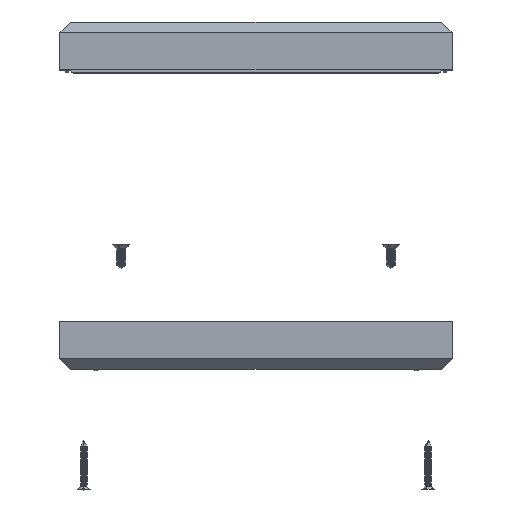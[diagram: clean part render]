
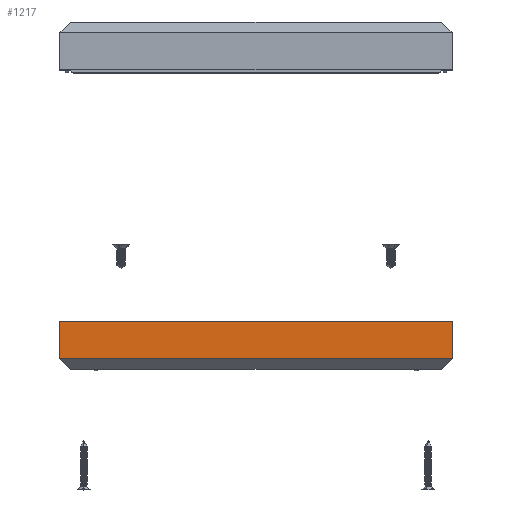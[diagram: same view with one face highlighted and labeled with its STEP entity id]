
A CAD part, top view. The second image highlights one B-rep face of the part: STEP entity #1217.
In plain terms, the highlighted planar face has unit normal (0, 0, 1).
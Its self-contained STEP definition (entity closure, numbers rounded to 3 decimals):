
#15 = VERTEX_POINT ( 'NONE', #5220 ) ;
#189 = VERTEX_POINT ( 'NONE', #9823 ) ;
#793 = CARTESIAN_POINT ( 'NONE',  ( 62.5, -11.8, 33.5 ) ) ;
#980 = DIRECTION ( 'NONE',  ( 0., 1., 0. ) ) ;
#1217 = ADVANCED_FACE ( 'NONE', ( #5159 ), #2919, .T. ) ;
#1249 = EDGE_CURVE ( 'NONE', #15, #11735, #5481, .T. ) ;
#1661 = CARTESIAN_POINT ( 'NONE',  ( 62.5, 0., 33.5 ) ) ;
#1992 = DIRECTION ( 'NONE',  ( 0., 1., 0. ) ) ;
#2919 = PLANE ( 'NONE',  #11196 ) ;
#3365 = EDGE_CURVE ( 'NONE', #189, #3855, #11474, .T. ) ;
#3855 = VERTEX_POINT ( 'NONE', #11453 ) ;
#4312 = ORIENTED_EDGE ( 'NONE', *, *, #3365, .T. ) ;
#4794 = CARTESIAN_POINT ( 'NONE',  ( -62.5, -15.3, 33.5 ) ) ;
#4828 = VECTOR ( 'NONE', #11739, 1000. ) ;
#5159 = FACE_OUTER_BOUND ( 'NONE', #6673, .T. ) ;
#5220 = CARTESIAN_POINT ( 'NONE',  ( -62.5, 0., 33.5 ) ) ;
#5481 = LINE ( 'NONE', #6934, #4828 ) ;
#5866 = DIRECTION ( 'NONE',  ( 1., 0., 0. ) ) ;
#6048 = VECTOR ( 'NONE', #1992, 1000. ) ;
#6306 = EDGE_CURVE ( 'NONE', #189, #15, #7005, .T. ) ;
#6673 = EDGE_LOOP ( 'NONE', ( #11328, #4312, #8642, #11083 ) ) ;
#6934 = CARTESIAN_POINT ( 'NONE',  ( -62.5, 0., 33.5 ) ) ;
#7005 = LINE ( 'NONE', #8045, #6048 ) ;
#7929 = VECTOR ( 'NONE', #980, 1000. ) ;
#7963 = DIRECTION ( 'NONE',  ( 1., 0., 0. ) ) ;
#8045 = CARTESIAN_POINT ( 'NONE',  ( -62.5, -15.3, 33.5 ) ) ;
#8106 = EDGE_CURVE ( 'NONE', #3855, #11735, #8240, .T. ) ;
#8207 = VECTOR ( 'NONE', #5866, 1000. ) ;
#8240 = LINE ( 'NONE', #12977, #7929 ) ;
#8642 = ORIENTED_EDGE ( 'NONE', *, *, #8106, .T. ) ;
#9823 = CARTESIAN_POINT ( 'NONE',  ( -62.5, -11.8, 33.5 ) ) ;
#11083 = ORIENTED_EDGE ( 'NONE', *, *, #1249, .F. ) ;
#11087 = DIRECTION ( 'NONE',  ( 0., 0., 1. ) ) ;
#11196 = AXIS2_PLACEMENT_3D ( 'NONE', #4794, #11087, #7963 ) ;
#11328 = ORIENTED_EDGE ( 'NONE', *, *, #6306, .F. ) ;
#11453 = CARTESIAN_POINT ( 'NONE',  ( 62.5, -11.8, 33.5 ) ) ;
#11474 = LINE ( 'NONE', #793, #8207 ) ;
#11735 = VERTEX_POINT ( 'NONE', #1661 ) ;
#11739 = DIRECTION ( 'NONE',  ( 1., 0., 0. ) ) ;
#12977 = CARTESIAN_POINT ( 'NONE',  ( 62.5, -15.3, 33.5 ) ) ;
